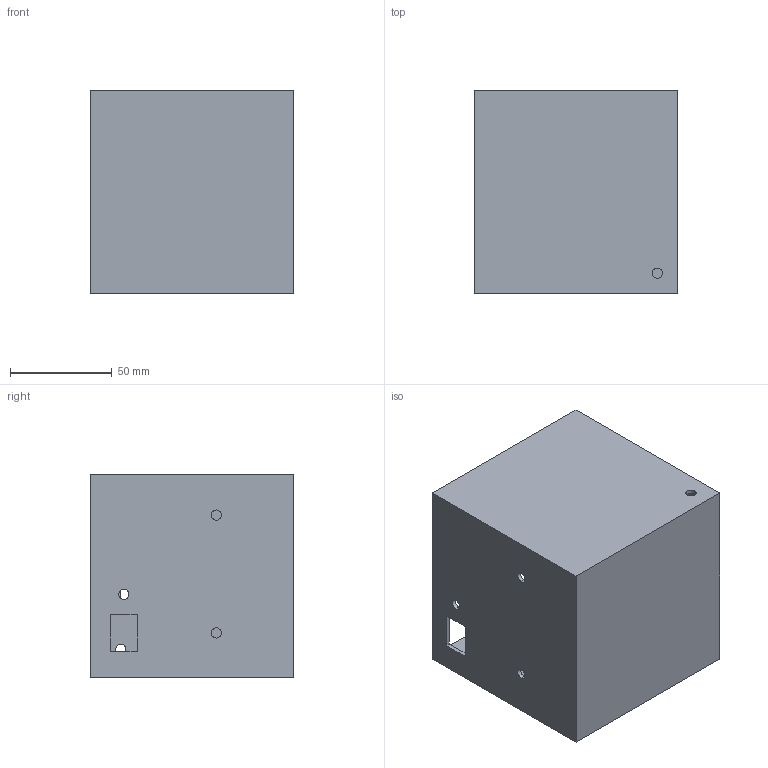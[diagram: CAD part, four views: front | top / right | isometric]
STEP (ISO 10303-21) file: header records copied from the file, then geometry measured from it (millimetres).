
FILE_DESCRIPTION (( 'STEP AP214' ), '1' );
FILE_NAME ('Pièce3.STEP', '2025-06-14T14:31:27', ( '' ), ( '' ), 'SwSTEP 2.0', 'SolidWorks 2021', '' );
FILE_SCHEMA (( 'AUTOMOTIVE_DESIGN' ));
Length unit declared in the file: millimetre
Products named in the file (1): Pièce3
Bounding box: 100 x 100 x 100 mm (x, y, z)
Volume: 95178.2 mm3; surface area: 96218.8 mm2
Topology: 1 solids, 1 shells, 221 faces, 646 edges, 428 vertices
Faces by surface type: cylinder 182, plane 27, bspline 12
Entity records: 16554 total; most frequent: CARTESIAN_POINT 11616, ORIENTED_EDGE 1292, DIRECTION 778, EDGE_CURVE 646, VERTEX_POINT 428, AXIS2_PLACEMENT_3D 262, VECTOR 254, LINE 254
